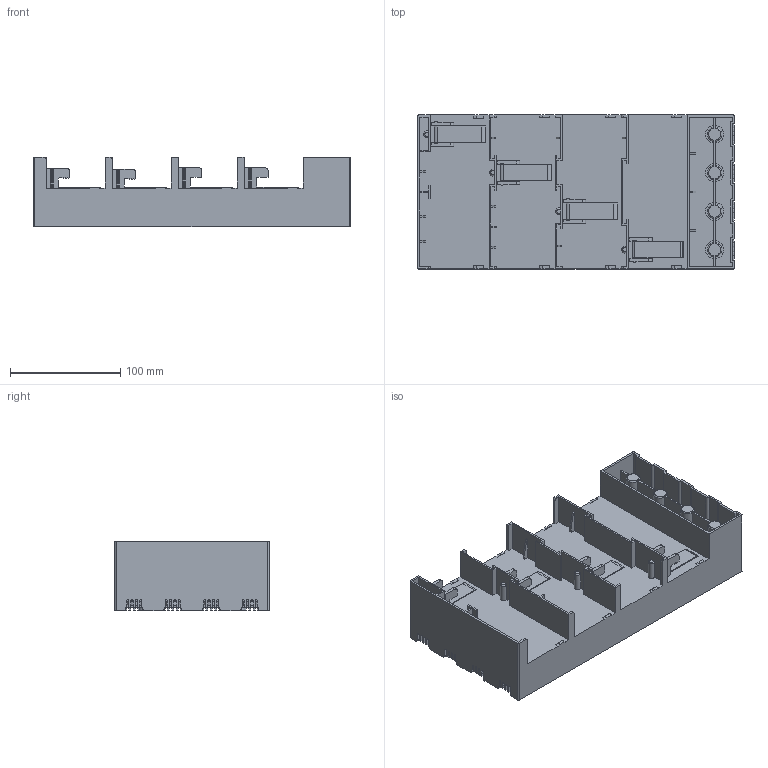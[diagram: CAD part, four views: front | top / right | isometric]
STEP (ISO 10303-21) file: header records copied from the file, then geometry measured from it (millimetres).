
FILE_DESCRIPTION (( 'STEP AP203' ), '1' );
FILE_NAME ('55188.STEP', '2021-08-26T07:53:54', ( '' ), ( '' ), 'SwSTEP 2.0', 'SolidWorks 2017', '' );
FILE_SCHEMA (( 'CONFIG_CONTROL_DESIGN' ));
Products named in the file (2): 55188
Bounding box: 288 x 140 x 63 mm (x, y, z)
Volume: 1249907.1 mm3; surface area: 330024.3 mm2
Topology: 1 solids, 5 shells, 3149 faces, 8938 edges, 5881 vertices
Faces by surface type: plane 2526, cylinder 368, bspline 208, torus 24, cone 23
Full cylindrical faces by diameter (mm): 3.2 x2, 3.3 x8, 5.2 x4, 6 x11, 9 x12, 13 x8, 16.5 x8
Entity records: 120309 total; most frequent: CARTESIAN_POINT 39408, ORIENTED_EDGE 17634, DIRECTION 14906, EDGE_CURVE 8817, VECTOR 7514, LINE 7514, VERTEX_POINT 5858, AXIS2_PLACEMENT_3D 3696
